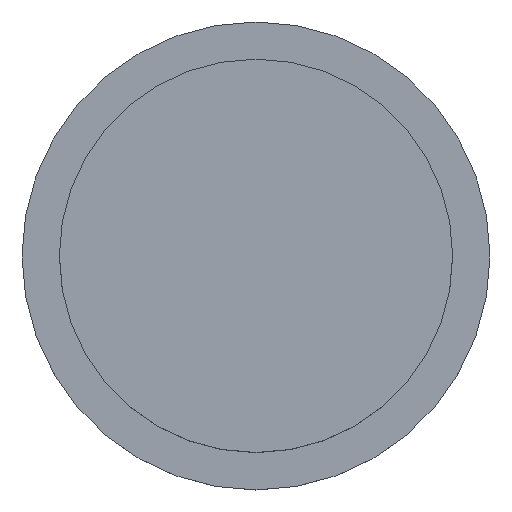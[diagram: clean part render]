
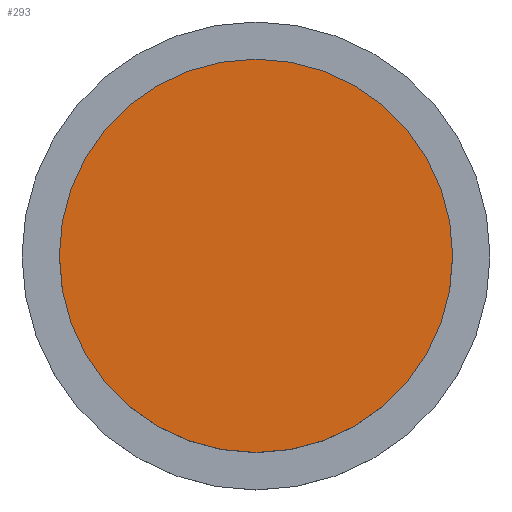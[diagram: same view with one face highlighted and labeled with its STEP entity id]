
A CAD part, top view. The second image highlights one B-rep face of the part: STEP entity #293.
In plain terms, the highlighted planar face has unit normal (0, 0, 1).
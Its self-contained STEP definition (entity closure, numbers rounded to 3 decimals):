
#168 = CYLINDRICAL_SURFACE('',#169,7.9);
#169 = AXIS2_PLACEMENT_3D('',#170,#171,#172);
#170 = CARTESIAN_POINT('',(-28.575,-28.575,22.));
#171 = DIRECTION('',(-0.,-0.,-1.));
#172 = DIRECTION('',(1.,0.,0.));
#239 = VERTEX_POINT('',#240);
#240 = CARTESIAN_POINT('',(-20.675,-28.575,25.05));
#261 = EDGE_CURVE('',#239,#239,#262,.T.);
#262 = SURFACE_CURVE('',#263,(#268,#275),.PCURVE_S1.);
#263 = CIRCLE('',#264,7.9);
#264 = AXIS2_PLACEMENT_3D('',#265,#266,#267);
#265 = CARTESIAN_POINT('',(-28.575,-28.575,25.05));
#266 = DIRECTION('',(0.,0.,1.));
#267 = DIRECTION('',(1.,0.,0.));
#268 = PCURVE('',#168,#269);
#269 = DEFINITIONAL_REPRESENTATION('',(#270),#274);
#270 = LINE('',#271,#272);
#271 = CARTESIAN_POINT('',(-0.,-3.05));
#272 = VECTOR('',#273,1.);
#273 = DIRECTION('',(-1.,0.));
#274 = ( GEOMETRIC_REPRESENTATION_CONTEXT(2) 
PARAMETRIC_REPRESENTATION_CONTEXT() REPRESENTATION_CONTEXT('2D SPACE',''
  ) );
#275 = PCURVE('',#276,#281);
#276 = PLANE('',#277);
#277 = AXIS2_PLACEMENT_3D('',#278,#279,#280);
#278 = CARTESIAN_POINT('',(-28.575,-28.575,25.05));
#279 = DIRECTION('',(0.,0.,1.));
#280 = DIRECTION('',(1.,0.,-0.));
#281 = DEFINITIONAL_REPRESENTATION('',(#282),#286);
#282 = CIRCLE('',#283,7.9);
#283 = AXIS2_PLACEMENT_2D('',#284,#285);
#284 = CARTESIAN_POINT('',(0.,0.));
#285 = DIRECTION('',(1.,0.));
#286 = ( GEOMETRIC_REPRESENTATION_CONTEXT(2) 
PARAMETRIC_REPRESENTATION_CONTEXT() REPRESENTATION_CONTEXT('2D SPACE',''
  ) );
#293 = ADVANCED_FACE('',(#294),#276,.T.);
#294 = FACE_BOUND('',#295,.T.);
#295 = EDGE_LOOP('',(#296));
#296 = ORIENTED_EDGE('',*,*,#261,.T.);
